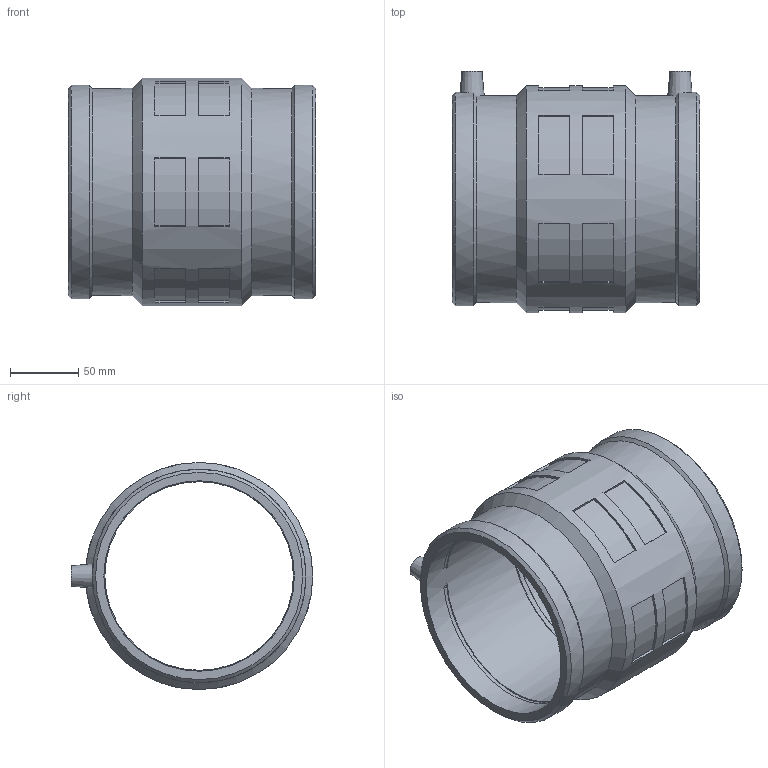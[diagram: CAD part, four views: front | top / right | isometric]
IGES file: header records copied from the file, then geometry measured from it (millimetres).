
Global section: file name: 460104140.ipt; native system: Autodesk Inventor 2015; preprocessor: unknown; author: KIM; date: 20171106.093416; units: millimetre
Bounding box: 182 x 177.5 x 167 mm (x, y, z)
Volume: 825791.5 mm3; surface area: 188563.7 mm2
Topology: 1 solids, 1 shells, 98 faces, 240 edges, 160 vertices
Faces by surface type: plane 60, cylinder 19, cone 12, revolution 7
Full cylindrical faces by diameter (mm): 4 x2, 152.271 x2, 156.98 x2, 167 x1
